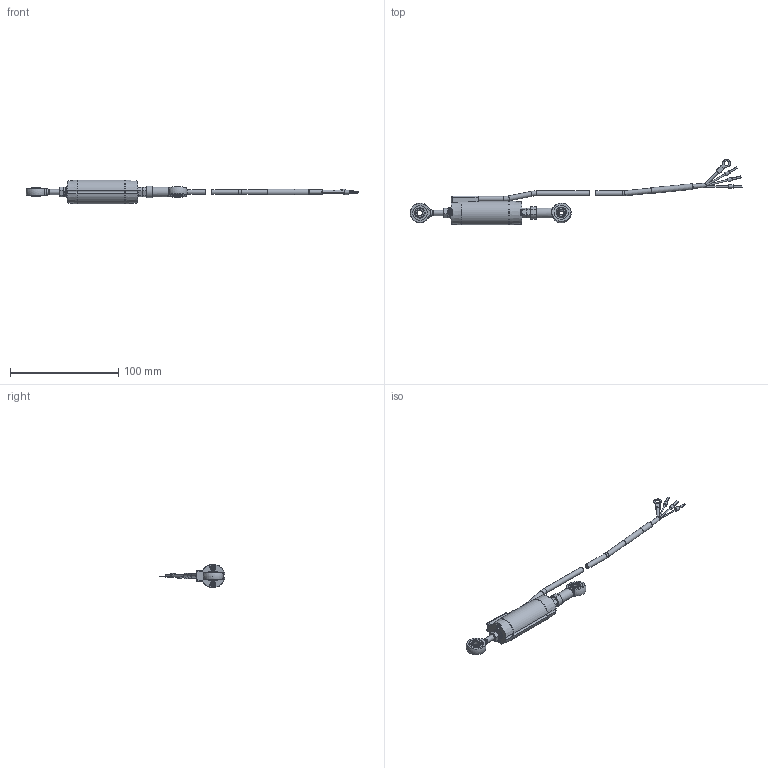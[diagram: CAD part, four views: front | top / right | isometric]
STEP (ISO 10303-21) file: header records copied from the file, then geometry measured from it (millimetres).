
FILE_DESCRIPTION(/* description */ (''),/* implementation_level */ '2;1');
FILE_NAME(/* name */ 'C:\Users\TSC_Brendan\Desktop\LPPS-22-010\LPPS-22-010 SW.stp',/* time_stamp */ '2021-10-14T12:49:22-04:00',/* author */ ('TSC_Brendan'),/* organization */ (''),/* preprocessor_version */ 'ST-DEVELOPER v18.1',/* originating_system */ 'Autodesk Inventor 2022',/* authorisation */ '');
FILE_SCHEMA (('AUTOMOTIVE_DESIGN { 1 0 10303 214 3 1 1 }'));
Products named in the file (4): LPPS-22-010 SW; LPPS-22-010 Cable Simplified; LPPS-22-010 Shaft Simplified; LPPS-22-010_Housing Simplified
Assembly tree (3 placements, depth 2):
  LPPS-22-010 SW
    LPPS-22-010 Cable Simplified
    LPPS-22-010 Shaft Simplified
    LPPS-22-010_Housing Simplified
Bounding box: 306.05 x 60.43 x 21.96 mm (x, y, z)
Volume: 29729.9 mm3; surface area: 25965.8 mm2
Topology: 30 solids, 30 shells, 757 faces, 2739 edges, 2048 vertices
Faces by surface type: cylinder 349, plane 202, cone 142, bspline 28, torus 22, sphere 14
Full cylindrical faces by diameter (mm): 1.27 x3, 1.48 x96, 1.575 x2, 2 x92, 2.286 x5, 3.175 x5, 3.81 x1, 3.881 x1, 4 x4, 4.134 x1, 4.191 x1, 4.342 x12, 4.572 x5, 4.826 x3, 4.851 x1, 4.953 x1, 5 x15, 5.004 x2, 5.08 x1, 5.207 x1, 5.3 x1, 6.35 x2, 9.144 x1, 10 x1, 12.675 x4, 12.7 x1, 15.875 x2, 17.78 x1
Entity records: 45074 total; most frequent: CARTESIAN_POINT 23734, ORIENTED_EDGE 5444, DIRECTION 3368, EDGE_CURVE 2722, VERTEX_POINT 2048, AXIS2_PLACEMENT_3D 1373, EDGE_LOOP 826, STYLED_ITEM 787
